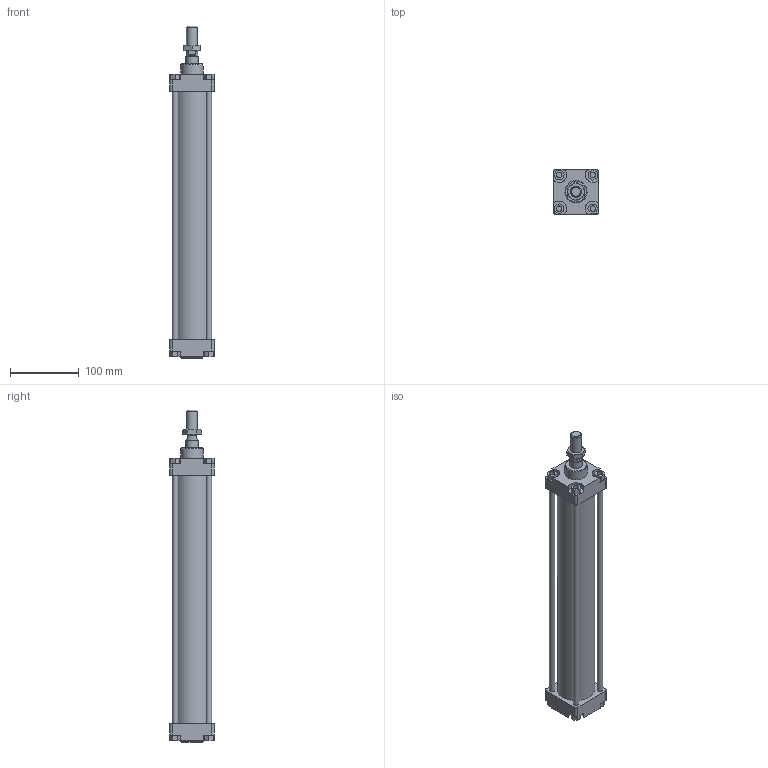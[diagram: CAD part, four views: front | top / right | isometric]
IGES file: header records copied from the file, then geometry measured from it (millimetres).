
Global section: file name: 1303_050_0300_01A; native system: Autodesk Inventor 2014; preprocessor: unknown; author: A. Manieri; date: 20161123.150243; units: millimetre
Bounding box: 65 x 65 x 482 mm (x, y, z)
Volume: 591854.2 mm3; surface area: 235009.1 mm2
Topology: 9 solids, 9 shells, 163 faces, 401 edges, 268 vertices
Faces by surface type: bspline 163
